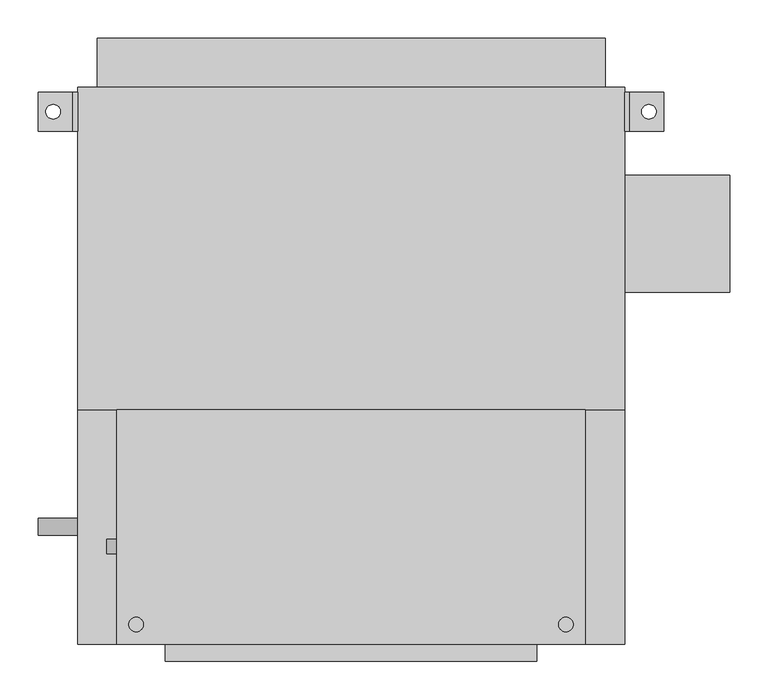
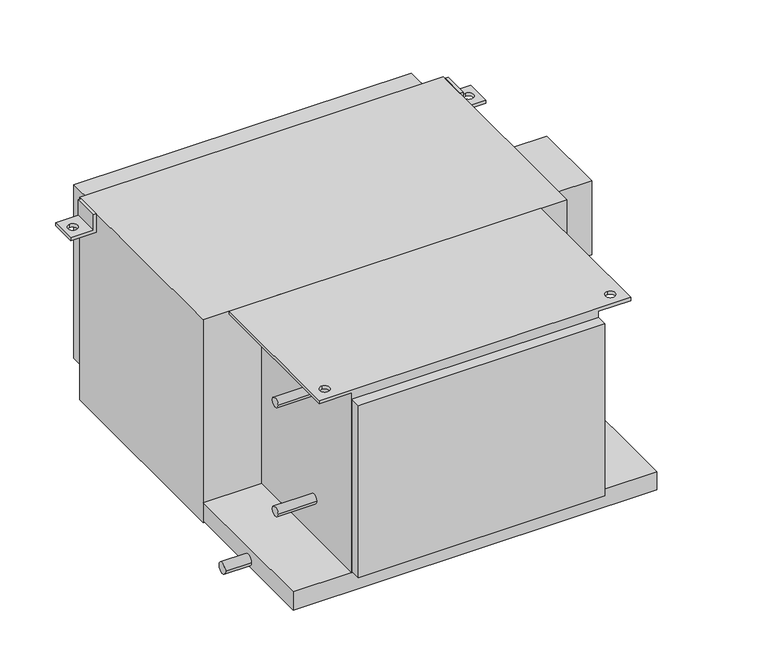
"""IFC4 building model written with IfcOpenShell, lengths in millimetres: proxy geometry, Concealed_High_Capacity_Horizontal_Fan_Coil_Unit_With_Plenum_-_42DCA_-_CARRIER_-_2-Pipe_Cool-EHeat_LH_2022 : Size 08 - 277v/60Hz/1Ph - 6 Row 6.0kW."""

from ifc_helpers import new_model, si_unit, point, frame, frame_2d, origin, place, context, project, spatial, polyline, circle_curve, trimmed, segment, composite_curve, outline, extrude, source, transform, mapped, element, save
from ifc_brep_helpers import plane_surface, revolved_surface, advanced_brep


def mechanical_equipment_17cbac74(model_context):
    return source(origin(), model_context, "Body", "SolidModel", [
        advanced_brep(
        [(-203.2, 327.025, -38.1), (-254.0, 327.025, -38.1), (-254.0, 327.025, -31.75), (-209.55, 327.025, -31.75), (-209.55, 327.025, 0.0), (-203.2, 327.025, 0.0), (-203.2, 276.225, -38.1), (-203.2, 276.225, 0.0), (-209.55, 276.225, 0.0), (-209.55, 276.225, -31.75), (-254.0, 276.225, -31.75), (-254.0, 276.225, -38.1), (-234.95, 292.1, -38.1), (-234.95, 311.15, -38.1), (-234.95, 311.15, -31.75), (-234.95, 292.1, -31.75)],
        [
            (0, 1),
            (1, 2),
            (2, 3),
            (3, 4),
            (4, 5),
            (5, 0),
            (6, 7),
            (7, 8),
            (8, 9),
            (9, 10),
            (10, 11),
            (11, 6),
            (0, 6),
            (11, 1),
            (12, 13, circle_curve(frame((-234.95, 301.625, -38.1), z_axis=(0.0, 0.0, 1.0), x_axis=(0.0, -1.0, 0.0)), 9.525)),
            (13, 12, circle_curve(frame((-234.95, 301.625, -38.1), z_axis=(0.0, 0.0, 1.0), x_axis=(0.0, -1.0, 0.0)), 9.525)),
            (10, 2),
            (9, 3),
            (14, 15, circle_curve(frame((-234.95, 301.625, -31.75), z_axis=(0.0, 0.0, -1.0), x_axis=(0.0, -1.0, 0.0)), 9.525)),
            (15, 14, circle_curve(frame((-234.95, 301.625, -31.75), z_axis=(0.0, 0.0, -1.0), x_axis=(0.0, -1.0, 0.0)), 9.525)),
            (8, 4),
            (7, 5),
            (14, 13),
            (12, 15),
        ],
        [
            plane_surface(frame((-203.2, 327.025, -38.1), z_axis=(0.0, 1.0, 0.0), x_axis=(-1.0, 0.0, 0.0))),
            plane_surface(frame((-203.2, 276.225, -38.1), z_axis=(0.0, -1.0, 0.0), x_axis=(1.0, 0.0, 0.0))),
            plane_surface(frame((-203.2, 327.025, -38.1), z_axis=(0.0, 0.0, -1.0), x_axis=(0.0, -1.0, 0.0))),
            plane_surface(frame((-254.0, 327.025, -38.1), z_axis=(-1.0, 0.0, 0.0), x_axis=(0.0, -1.0, 0.0))),
            plane_surface(frame((-254.0, 327.025, -31.75), z_axis=(0.0, 0.0, 1.0), x_axis=(0.0, -1.0, 0.0))),
            plane_surface(frame((-209.55, 327.025, -31.75), z_axis=(-1.0, 0.0, 0.0), x_axis=(0.0, -1.0, 0.0))),
            plane_surface(frame((-209.55, 327.025, 0.0), z_axis=(0.0, 0.0, 1.0), x_axis=(0.0, -1.0, 0.0))),
            plane_surface(frame((-203.2, 327.025, 0.0), z_axis=(1.0, 0.0, 0.0), x_axis=(0.0, -1.0, 0.0))),
            revolved_surface(polyline([(-234.95, 292.1, -38.1), (-234.95, 292.1, -31.75)]), (-234.95, 301.625, -31.75), (0.0, 0.0, -1.0)),
        ],
        [
            (0, [[1, 2, 3, 4, 5, 6]]),
            (1, [[7, 8, 9, 10, 11, 12]]),
            (2, [[-1, 13, -12, 14], [15, 16]]),
            (3, [[-2, -14, -11, 17]]),
            (4, [[-3, -17, -10, 18], [19, 20]]),
            (5, [[-4, -18, -9, 21]]),
            (6, [[-5, -21, -8, 22]]),
            (7, [[-6, -22, -7, -13]]),
            (8, [[23, -15, 24, -19]]),
            (8, [[-23, -20, -24, -16]]),
        ],
    ),
        advanced_brep(
        [(508.0, 327.025, -38.1), (508.0, 327.025, 0.0), (514.35, 327.025, 0.0), (514.35, 327.025, -31.75), (558.8, 327.025, -31.75), (558.8, 327.025, -38.1), (508.0, 276.225, -38.1), (558.8, 276.225, -38.1), (558.8, 276.225, -31.75), (514.35, 276.225, -31.75), (514.35, 276.225, 0.0), (508.0, 276.225, 0.0), (539.75, 311.15, -31.75), (539.75, 292.1, -31.75), (539.75, 292.1, -38.1), (539.75, 311.15, -38.1)],
        [
            (0, 1),
            (1, 2),
            (2, 3),
            (3, 4),
            (4, 5),
            (5, 0),
            (6, 7),
            (7, 8),
            (8, 9),
            (9, 10),
            (10, 11),
            (11, 6),
            (0, 6),
            (11, 1),
            (10, 2),
            (9, 3),
            (8, 4),
            (12, 13, circle_curve(frame((539.75, 301.625, -31.75), z_axis=(0.0, 0.0, -1.0), x_axis=(0.0, -1.0, 0.0)), 9.525)),
            (13, 12, circle_curve(frame((539.75, 301.625, -31.75), z_axis=(0.0, 0.0, -1.0), x_axis=(0.0, -1.0, 0.0)), 9.525)),
            (7, 5),
            (14, 15, circle_curve(frame((539.75, 301.625, -38.1), z_axis=(0.0, 0.0, 1.0), x_axis=(0.0, -1.0, 0.0)), 9.525)),
            (15, 14, circle_curve(frame((539.75, 301.625, -38.1), z_axis=(0.0, 0.0, 1.0), x_axis=(0.0, -1.0, 0.0)), 9.525)),
            (12, 15),
            (14, 13),
        ],
        [
            plane_surface(frame((-203.2, 327.025, -38.1), z_axis=(0.0, 1.0, 0.0), x_axis=(-1.0, 0.0, 0.0))),
            plane_surface(frame((-203.2, 276.225, -38.1), z_axis=(0.0, -1.0, 0.0), x_axis=(1.0, 0.0, 0.0))),
            plane_surface(frame((508.0, 327.025, -38.1), z_axis=(-1.0, 0.0, 0.0), x_axis=(0.0, -1.0, 0.0))),
            plane_surface(frame((508.0, 327.025, 0.0), z_axis=(0.0, 0.0, 1.0), x_axis=(0.0, -1.0, 0.0))),
            plane_surface(frame((514.35, 327.025, 0.0), z_axis=(1.0, 0.0, 0.0), x_axis=(0.0, -1.0, 0.0))),
            plane_surface(frame((514.35, 327.025, -31.75), z_axis=(0.0, 0.0, 1.0), x_axis=(0.0, -1.0, 0.0))),
            plane_surface(frame((558.8, 327.025, -31.75), z_axis=(1.0, 0.0, 0.0), x_axis=(0.0, -1.0, 0.0))),
            plane_surface(frame((558.8, 327.025, -38.1), z_axis=(0.0, 0.0, -1.0), x_axis=(0.0, -1.0, 0.0))),
            revolved_surface(polyline([(539.75, 292.1, -38.1), (539.75, 292.1, -31.75)]), (539.75, 301.625, -31.75), (0.0, 0.0, -1.0)),
        ],
        [
            (0, [[1, 2, 3, 4, 5, 6]]),
            (1, [[7, 8, 9, 10, 11, 12]]),
            (2, [[-1, 13, -12, 14]]),
            (3, [[-2, -14, -11, 15]]),
            (4, [[-3, -15, -10, 16]]),
            (5, [[-4, -16, -9, 17], [18, 19]]),
            (6, [[-5, -17, -8, 20]]),
            (7, [[-6, -20, -7, -13], [21, 22]]),
            (8, [[23, -21, 24, -18]]),
            (8, [[-23, -19, -24, -22]]),
        ],
    ),
        advanced_brep(
        [(-152.4, -85.725, -6.35), (-88.9, -85.725, -6.35), (-88.9, -390.525, -6.35), (-152.4, -390.525, -6.35), (-127.0, -355.6, -6.35), (-127.0, -374.65, -6.35), (457.2, -85.725, -6.35), (457.2, -390.525, -6.35), (393.7, -390.525, -6.35), (393.7, -85.725, -6.35), (431.8, -355.6, -6.35), (431.8, -374.65, -6.35), (-152.4, -85.725, 0.0), (-152.4, -390.525, 0.0), (457.2, -390.525, 0.0), (457.2, -85.725, 0.0), (-127.0, -374.65, 0.0), (-127.0, -355.6, 0.0), (431.8, -374.65, 0.0), (431.8, -355.6, 0.0), (-88.9, -390.525, -377.825), (393.7, -390.525, -377.825), (393.7, -85.725, -377.825), (-88.9, -85.725, -377.825)],
        [
            (0, 1),
            (1, 2),
            (2, 3),
            (3, 0),
            (4, 5, circle_curve(frame((-127.0, -365.125, -6.35), z_axis=(0.0, 0.0, 1.0), x_axis=(0.0, 1.0, 0.0)), 9.525)),
            (5, 4, circle_curve(frame((-127.0, -365.125, -6.35), z_axis=(0.0, 0.0, 1.0), x_axis=(0.0, 1.0, 0.0)), 9.525)),
            (6, 7),
            (7, 8),
            (8, 9),
            (9, 6),
            (10, 11, circle_curve(frame((431.8, -365.125, -6.35), z_axis=(0.0, 0.0, 1.0), x_axis=(0.0, 1.0, 0.0)), 9.525)),
            (11, 10, circle_curve(frame((431.8, -365.125, -6.35), z_axis=(0.0, 0.0, 1.0), x_axis=(0.0, 1.0, 0.0)), 9.525)),
            (12, 13),
            (13, 14),
            (14, 15),
            (15, 12),
            (16, 17, circle_curve(frame((-127.0, -365.125, 0.0), z_axis=(0.0, 0.0, -1.0), x_axis=(0.0, 1.0, 0.0)), 9.525)),
            (17, 16, circle_curve(frame((-127.0, -365.125, 0.0), z_axis=(0.0, 0.0, -1.0), x_axis=(0.0, 1.0, 0.0)), 9.525)),
            (18, 19, circle_curve(frame((431.8, -365.125, 0.0), z_axis=(0.0, 0.0, -1.0), x_axis=(0.0, 1.0, 0.0)), 9.525)),
            (19, 18, circle_curve(frame((431.8, -365.125, 0.0), z_axis=(0.0, 0.0, -1.0), x_axis=(0.0, 1.0, 0.0)), 9.525)),
            (3, 13),
            (12, 0),
            (2, 20),
            (20, 21),
            (21, 8),
            (7, 14),
            (15, 6),
            (9, 22),
            (22, 23),
            (23, 1),
            (22, 21),
            (20, 23),
            (16, 5),
            (4, 17),
            (18, 11),
            (10, 19),
        ],
        [
            plane_surface(frame((-152.4, -85.725, -6.35), z_axis=(0.0, 0.0, -1.0), x_axis=(0.0, 1.0, 0.0))),
            plane_surface(frame((-152.4, -85.725, 0.0), z_axis=(0.0, 0.0, 1.0), x_axis=(0.0, -1.0, 0.0))),
            plane_surface(frame((-152.4, -85.725, 0.0), z_axis=(-1.0, 0.0, 0.0), x_axis=(0.0, 0.0, -1.0))),
            plane_surface(frame((-152.4, -390.525, 0.0), z_axis=(0.0, -1.0, 0.0), x_axis=(0.0, 0.0, -1.0))),
            plane_surface(frame((-88.9, -85.725, 0.0), z_axis=(0.0, 1.0, 0.0), x_axis=(0.0, 0.0, -1.0))),
            plane_surface(frame((457.2, -390.525, 0.0), z_axis=(1.0, 0.0, 0.0), x_axis=(0.0, 0.0, -1.0))),
            plane_surface(frame((-88.9, -85.725, -377.825), z_axis=(0.0, 0.0, -1.0), x_axis=(1.0, 0.0, 0.0))),
            plane_surface(frame((-88.9, -85.725, 0.0), z_axis=(-1.0, 0.0, 0.0), x_axis=(0.0, 0.0, -1.0))),
            plane_surface(frame((393.7, -390.525, 0.0), z_axis=(1.0, 0.0, 0.0), x_axis=(0.0, 0.0, -1.0))),
            revolved_surface(polyline([(-127.0, -355.6, -6.35), (-127.0, -355.6, 0.0)]), (-127.0, -365.125, 0.0), (0.0, 0.0, -1.0)),
            revolved_surface(polyline([(431.8, -355.6, -6.35), (431.8, -355.6, 0.0)]), (431.8, -365.125, 0.0), (0.0, 0.0, -1.0)),
        ],
        [
            (0, [[1, 2, 3, 4], [5, 6]]),
            (0, [[7, 8, 9, 10], [11, 12]]),
            (1, [[13, 14, 15, 16], [17, 18], [19, 20]]),
            (2, [[-4, 21, -13, 22]]),
            (3, [[-3, 23, 24, 25, -8, 26, -14, -21]]),
            (4, [[-1, -22, -16, 27, -10, 28, 29, 30]]),
            (5, [[-7, -27, -15, -26]]),
            (6, [[31, -24, 32, -29]]),
            (7, [[-32, -23, -2, -30]]),
            (8, [[-31, -28, -9, -25]]),
            (9, [[33, -5, 34, -17]]),
            (9, [[-33, -18, -34, -6]]),
            (10, [[35, -11, 36, -19]]),
            (10, [[-35, -20, -36, -12]]),
        ],
    ),
        extrude(outline(polyline([(-177.8, 396.875), (482.6, 396.875), (482.6, 333.375), (-177.8, 333.375), (-177.8, 396.875)])), frame((0.0, 0.0, -381.0), z_axis=(0.0, 0.0, 1.0), x_axis=(1.0, 0.0, 0.0)), (0.0, 0.0, 1.0), 358.775),
        extrude(outline(composite_curve([segment(trimmed(circle_curve(frame_2d((-263.525, -76.2)), 9.525), [point((-273.05, -76.2))], [point((-254.0, -76.2))], False, "CARTESIAN"), True, "CONTINUOUS"), segment(trimmed(circle_curve(frame_2d((-263.525, -76.2)), 9.525), [point((-254.0, -76.2))], [point((-273.05, -76.2))], False, "CARTESIAN"), True, "CONTINUOUS")], self_intersect=False)), frame((-165.1, 0.0, 0.0), z_axis=(1.0, 0.0, 0.0), x_axis=(0.0, 1.0, 0.0)), (0.0, 0.0, 1.0), 76.2),
        extrude(outline(composite_curve([segment(trimmed(circle_curve(frame_2d((-263.525, -301.625)), 9.525), [point((-273.05, -301.625))], [point((-254.0, -301.625))], False, "CARTESIAN"), True, "CONTINUOUS"), segment(trimmed(circle_curve(frame_2d((-263.525, -301.625)), 9.525), [point((-254.0, -301.625))], [point((-273.05, -301.625))], False, "CARTESIAN"), True, "CONTINUOUS")], self_intersect=False)), frame((-165.1, 0.0, 0.0), z_axis=(1.0, 0.0, 0.0), x_axis=(0.0, 1.0, 0.0)), (0.0, 0.0, 1.0), 76.2),
        extrude(outline(composite_curve([segment(trimmed(circle_curve(frame_2d((-238.125, -403.225)), 11.1125), [point((-249.2375, -403.225))], [point((-227.0125, -403.225))], False, "CARTESIAN"), True, "CONTINUOUS"), segment(trimmed(circle_curve(frame_2d((-238.125, -403.225)), 11.1125), [point((-227.0125, -403.225))], [point((-249.2375, -403.225))], False, "CARTESIAN"), True, "CONTINUOUS")], self_intersect=False)), frame((-254.0, 0.0, 0.0), z_axis=(1.0, 0.0, 0.0), x_axis=(0.0, 1.0, 0.0)), (0.0, 0.0, 1.0), 50.8),
        extrude(outline(polyline([(644.525, 219.075), (644.525, 66.675), (508.0, 66.675), (508.0, 219.075), (644.525, 219.075)])), frame((0.0, 0.0, -254.0), z_axis=(0.0, 0.0, 1.0), x_axis=(1.0, 0.0, 0.0)), (0.0, 0.0, 1.0), 152.4),
        extrude(outline(polyline([(393.7, -412.75), (-88.9, -412.75), (-88.9, -390.525), (393.7, -390.525), (393.7, -412.75)])), frame((0.0, 0.0, -374.65), z_axis=(0.0, 0.0, 1.0), x_axis=(1.0, 0.0, 0.0)), (0.0, 0.0, 1.0), 355.6),
        extrude(outline(polyline([(508.0, -85.725), (-203.2, -85.725), (-203.2, 333.375), (508.0, 333.375), (508.0, -85.725)])), frame((0.0, 0.0, -419.1), z_axis=(0.0, 0.0, 1.0), x_axis=(1.0, 0.0, 0.0)), (0.0, 0.0, 1.0), 419.1),
        extrude(outline(polyline([(508.0, -85.725), (508.0, -390.525), (-203.2, -390.525), (-203.2, -85.725), (508.0, -85.725)])), frame((0.0, 0.0, -415.925), z_axis=(0.0, 0.0, 1.0), x_axis=(1.0, 0.0, 0.0)), (0.0, 0.0, 1.0), 38.1),
    ])


if __name__ == "__main__":
    model = new_model("IFC4")
    model_context = context("Model", 3, world=origin())
    ifc_project = project(units=[si_unit("LENGTHUNIT", "METRE", prefix="MILLI")], contexts=[model_context])
    site = spatial("IfcSite", under=ifc_project)
    building = spatial("IfcBuilding", under=site)
    placement = place(None, origin())
    mechanical_equipment_shape = mechanical_equipment_17cbac74(model_context)
    element("IfcBuildingElementProxy", 1, Name="Concealed_High_Capacity_Horizontal_Fan_Coil_Unit_With_Plenum_-_42DCA_-_CARRIER_-_2-Pipe_Cool-EHeat_LH_2022 : Size 08 - 277v/60Hz/1Ph - 6 Row 6.0kW", ObjectType="Concealed_High_Capacity_Horizontal_Fan_Coil_Unit_With_Plenum_-_42DCA_-_CARRIER_-_2-Pipe_Cool-EHeat_LH_2022 : Size 08 - 277v/60Hz/1Ph - 6 Row 6.0kW", at=placement, inside=building, context=model_context, shape_type="MappedRepresentation", body=[
        mapped(mechanical_equipment_shape, transform((0.0, 0.0, 0.0), x_axis=(1.0, 0.0, 0.0), y_axis=(0.0, 1.0, 0.0), z_axis=(0.0, 0.0, 1.0))),
    ])
    save(model, "model.ifc")
